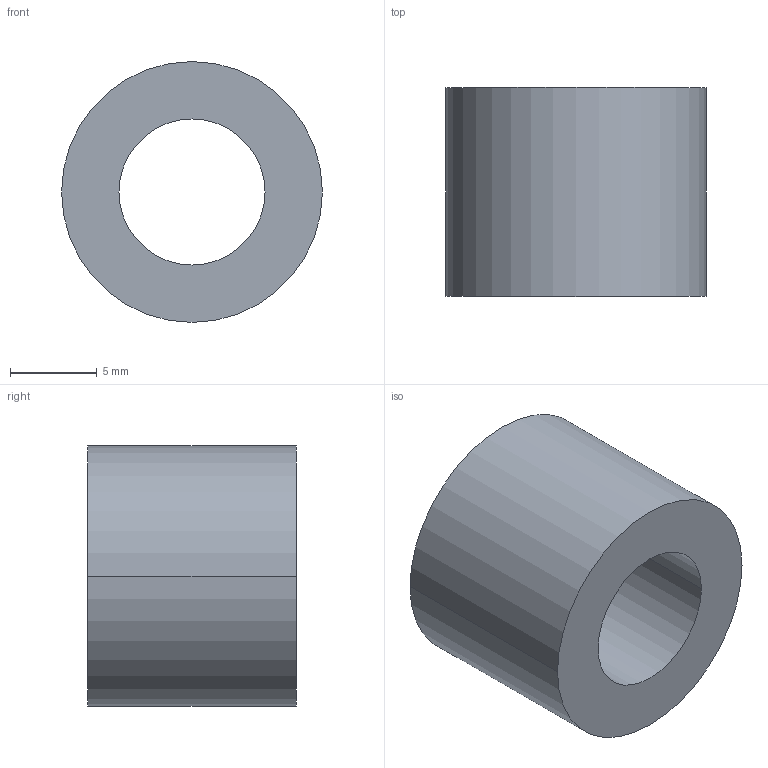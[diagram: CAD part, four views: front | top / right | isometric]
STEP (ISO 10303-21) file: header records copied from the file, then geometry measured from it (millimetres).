
FILE_DESCRIPTION (( 'STEP AP203' ), '1' );
FILE_NAME ('30800.WPP15E8.4.step', '2019-01-23T22:30:20', ( '' ), ( '' ), 'SwSTEP 2.0', 'SolidWorks 2017', '' );
FILE_SCHEMA (( 'CONFIG_CONTROL_DESIGN' ));
Length unit declared in the file: millimetre
Products named in the file (1): 30800.WPP15E8.4
Bounding box: 15 x 12 x 15 mm (x, y, z)
Volume: 1430.5 mm3; surface area: 1103.9 mm2
Topology: 1 solids, 1 shells, 8 faces, 16 edges, 10 vertices
Faces by surface type: cylinder 4, torus 2, plane 2
Entity records: 297 total; most frequent: DIRECTION 46, CARTESIAN_POINT 35, ORIENTED_EDGE 32, AXIS2_PLACEMENT_3D 21, EDGE_CURVE 16, CIRCLE 12, EDGE_LOOP 10, VERTEX_POINT 10
